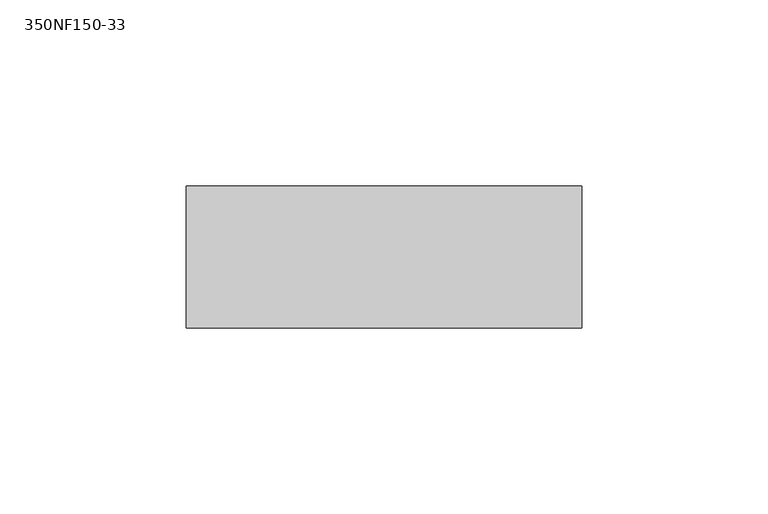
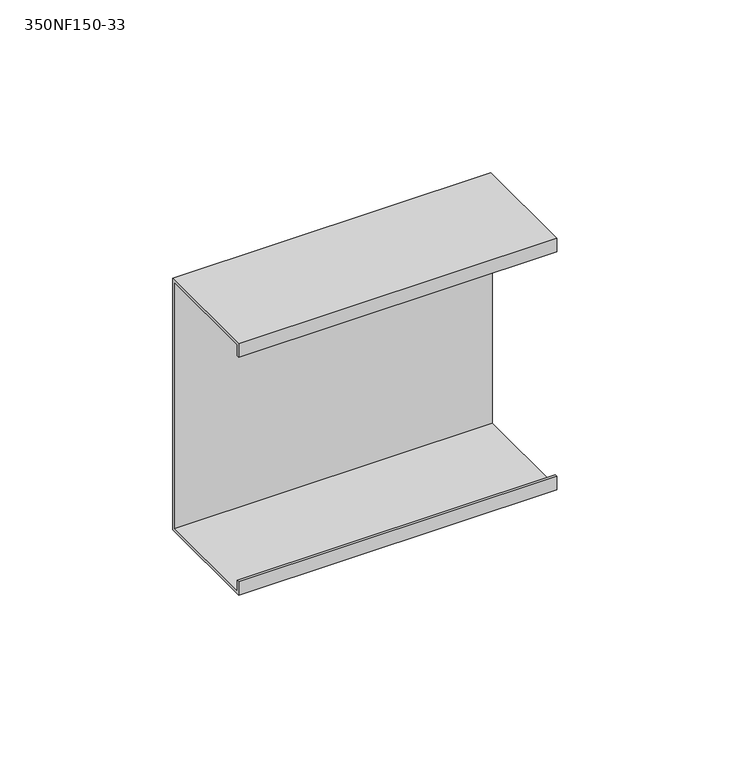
"""IFC4 building model written with IfcOpenShell, lengths in millimetres: beam geometry, BIMSF-SSMA-S : 350NF150-33."""

from ifc_helpers import new_model, si_unit, frame, origin, place, context, project, spatial, polyline, outline, extrude, source, transform, mapped, element, save


def beam_350nf150_33_51fc6f5c(model_context):
    return source(origin(), model_context, "Body", "SweptSolid", [
        extrude(outline(polyline([(19.05, 44.45), (19.05, -44.45), (-19.05, -44.45), (-19.05, -39.6748), (-18.1676842, -39.6748), (-18.1676842, -43.5676842), (18.1676842, -43.5676842), (18.1676842, 43.5676842), (-18.1676842, 43.5676842), (-18.1676842, 39.6748), (-19.05, 39.6748), (-19.05, 44.45), (19.05, 44.45)])), frame((-53.1371531, 0.0, 0.0), z_axis=(1.0, 0.0, 0.0), x_axis=(0.0, 1.0, 0.0)), (0.0, 0.0, 1.0), 106.2743063),
    ])


if __name__ == "__main__":
    model = new_model("IFC4")
    model_context = context("Model", 3, world=origin())
    ifc_project = project(units=[si_unit("LENGTHUNIT", "METRE", prefix="MILLI")], contexts=[model_context])
    site = spatial("IfcSite", under=ifc_project)
    building = spatial("IfcBuilding", under=site)
    placement = place(None, origin())
    beam_350nf150_33_shape = beam_350nf150_33_51fc6f5c(model_context)
    element("IfcBeam", 1, ObjectType="BIMSF-SSMA-S : 350NF150-33", at=placement, inside=building, context=model_context, shape_type="MappedRepresentation", body=[
        mapped(beam_350nf150_33_shape, transform((0.0, 0.0, 0.0), x_axis=(1.0, 0.0, 0.0), y_axis=(0.0, 1.0, 0.0), z_axis=(0.0, 0.0, 1.0))),
    ])
    save(model, "model.ifc")
